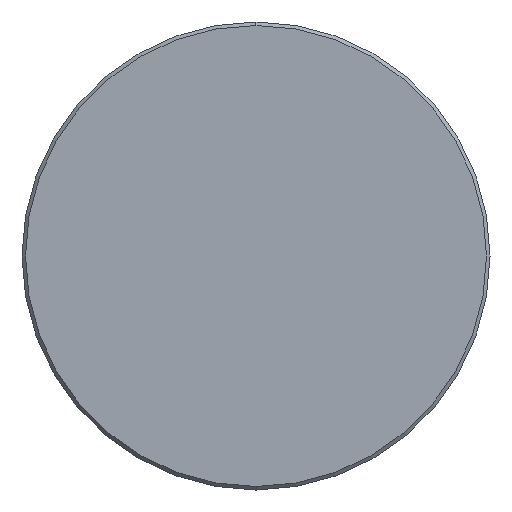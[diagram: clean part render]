
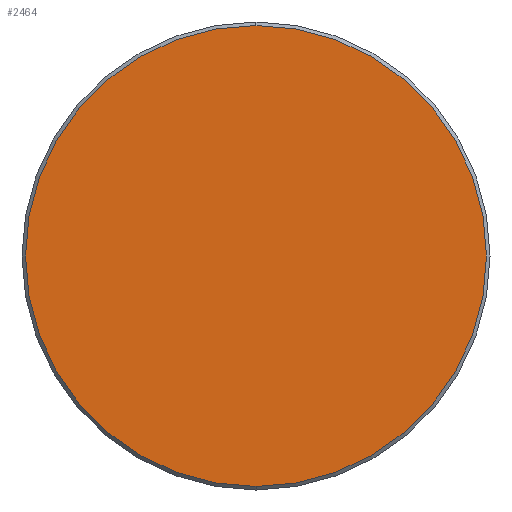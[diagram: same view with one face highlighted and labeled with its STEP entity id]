
A CAD part, left-side view. The second image highlights one B-rep face of the part: STEP entity #2464.
In plain terms, the highlighted planar face has unit normal (-1, 0, 0).
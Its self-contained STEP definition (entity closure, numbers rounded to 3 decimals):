
#43 = AXIS2_PLACEMENT_3D ( 'NONE', #2169, #434, #240 ) ;
#177 = DIRECTION ( 'NONE',  ( -1., 0., 0. ) ) ;
#240 = DIRECTION ( 'NONE',  ( 0., 0., -1. ) ) ;
#278 = EDGE_CURVE ( 'NONE', #2453, #1562, #2211, .T. ) ;
#434 = DIRECTION ( 'NONE',  ( 1., 0., 0. ) ) ;
#500 = FACE_OUTER_BOUND ( 'NONE', #2466, .T. ) ;
#564 = EDGE_CURVE ( 'NONE', #1562, #2453, #640, .T. ) ;
#586 = CARTESIAN_POINT ( 'NONE',  ( -126.026, 0., 32.5 ) ) ;
#640 = CIRCLE ( 'NONE', #1808, 32.5 ) ;
#922 = DIRECTION ( 'NONE',  ( -1., 0., 0. ) ) ;
#1011 = PLANE ( 'NONE',  #43 ) ;
#1535 = CARTESIAN_POINT ( 'NONE',  ( -126.026, 0., 0. ) ) ;
#1546 = AXIS2_PLACEMENT_3D ( 'NONE', #1535, #177, #2493 ) ;
#1562 = VERTEX_POINT ( 'NONE', #586 ) ;
#1585 = CARTESIAN_POINT ( 'NONE',  ( -126.026, 0., -32.5 ) ) ;
#1808 = AXIS2_PLACEMENT_3D ( 'NONE', #2085, #922, #2273 ) ;
#1868 = ORIENTED_EDGE ( 'NONE', *, *, #564, .T. ) ;
#2043 = ORIENTED_EDGE ( 'NONE', *, *, #278, .T. ) ;
#2085 = CARTESIAN_POINT ( 'NONE',  ( -126.026, 0., 0. ) ) ;
#2169 = CARTESIAN_POINT ( 'NONE',  ( -126.026, 0., 0. ) ) ;
#2211 = CIRCLE ( 'NONE', #1546, 32.5 ) ;
#2273 = DIRECTION ( 'NONE',  ( 0., 0., 1. ) ) ;
#2453 = VERTEX_POINT ( 'NONE', #1585 ) ;
#2464 = ADVANCED_FACE ( 'NONE', ( #500 ), #1011, .F. ) ;
#2466 = EDGE_LOOP ( 'NONE', ( #2043, #1868 ) ) ;
#2493 = DIRECTION ( 'NONE',  ( 0., 0., 1. ) ) ;
